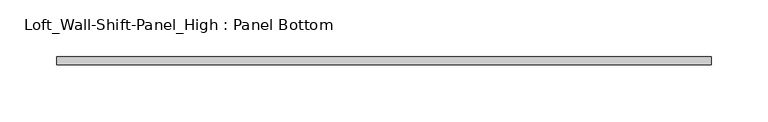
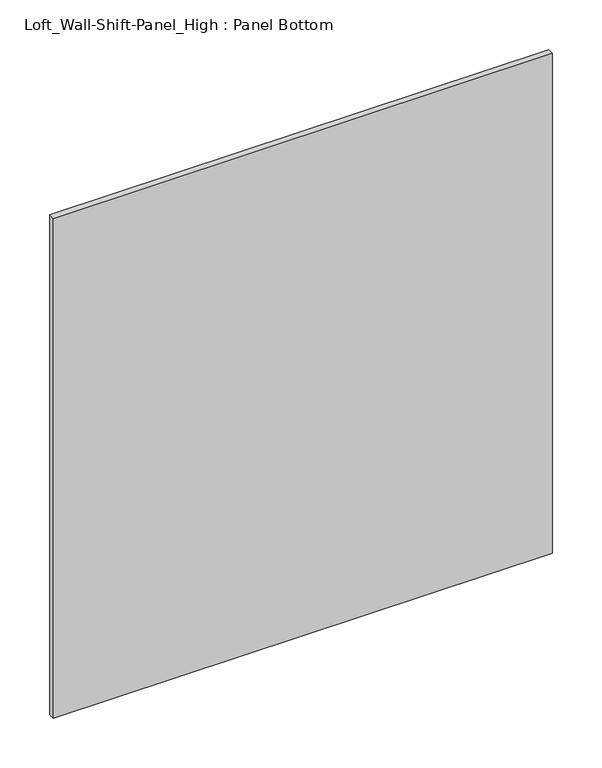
"""IFC4 building model written with IfcOpenShell, lengths in millimetres: furniture geometry, Loft_Wall-Shift-Panel_High : Panel Bottom."""

from ifc_helpers import new_model, si_unit, frame, origin, place, context, project, spatial, polyline, outline, extrude, source, transform, mapped, element, save


def loft_wall_shift_panel_high_panel_bottom_7a51d23b(model_context):
    return source(origin(), model_context, "Body", "SweptSolid", [
        extrude(outline(polyline([(288.925, -3.571875), (-288.925, -3.571875), (-288.925, 3.571875), (288.925, 3.571875), (288.925, -3.571875)])), frame((0.0, 0.0, 39.6875), z_axis=(0.0, 0.0, 1.0), x_axis=(1.0, 0.0, 0.0)), (0.0, 0.0, 1.0), 611.98125),
    ])


if __name__ == "__main__":
    model = new_model("IFC4")
    model_context = context("Model", 3, world=origin())
    ifc_project = project(units=[si_unit("LENGTHUNIT", "METRE", prefix="MILLI")], contexts=[model_context])
    site = spatial("IfcSite", under=ifc_project)
    building = spatial("IfcBuilding", under=site)
    placement = place(None, origin())
    loft_wall_shift_panel_high_panel_bottom_shape = loft_wall_shift_panel_high_panel_bottom_7a51d23b(model_context)
    element("IfcFurniture", 1, ObjectType="Loft_Wall-Shift-Panel_High : Panel Bottom", at=placement, inside=building, context=model_context, shape_type="MappedRepresentation", body=[
        mapped(loft_wall_shift_panel_high_panel_bottom_shape, transform((0.0, 0.0, 0.0), x_axis=(1.0, 0.0, 0.0), y_axis=(0.0, 1.0, 0.0), z_axis=(0.0, 0.0, 1.0))),
    ])
    save(model, "model.ifc")
